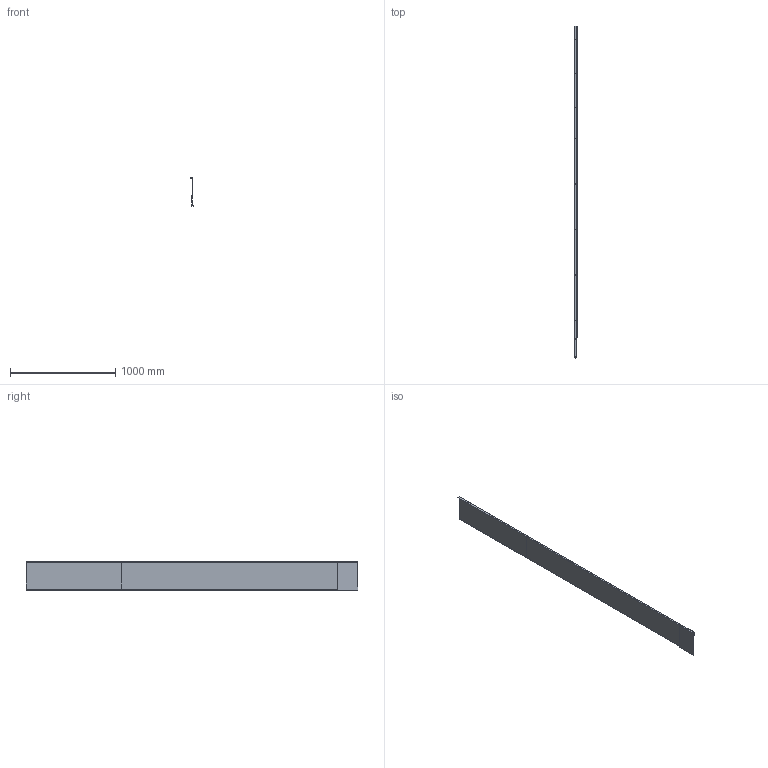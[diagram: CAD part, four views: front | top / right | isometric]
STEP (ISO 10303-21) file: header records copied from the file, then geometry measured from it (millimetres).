
FILE_DESCRIPTION (( 'STEP AP214' ), '1' );
FILE_NAME ('QSTX42A.STEP', '2016-07-28T14:44:30', ( 'BMC' ), ( 'Bard Manufacturing Co., Inc.' ), 'SwSTEP 2.0', 'SolidWorks 2016', '' );
FILE_SCHEMA (( 'AUTOMOTIVE_DESIGN' ));
Length unit declared in the file: inch
Products named in the file (4): 134-167; QSTX42A; 134-179; 134-180
Assembly tree (3 placements, depth 2):
  QSTX42A
    134-179
    134-180
    134-167
Bounding box: 26.49 x 3149.6 x 267.23 mm (x, y, z)
Volume: 870624.4 mm3; surface area: 1811956.6 mm2
Topology: 3 solids, 3 shells, 78 faces, 176 edges, 104 vertices
Faces by surface type: plane 48, cylinder 30
Entity records: 2354 total; most frequent: DIRECTION 404, CARTESIAN_POINT 364, ORIENTED_EDGE 352, EDGE_CURVE 176, AXIS2_PLACEMENT_3D 144, VECTOR 116, LINE 116, VERTEX_POINT 104
